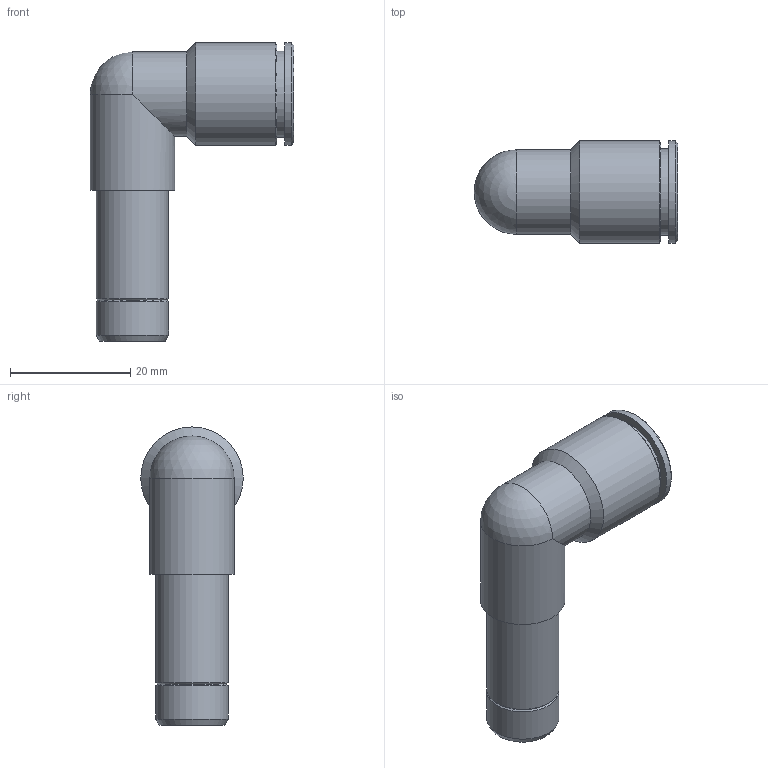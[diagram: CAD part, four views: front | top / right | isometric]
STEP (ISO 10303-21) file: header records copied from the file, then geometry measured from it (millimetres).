
FILE_DESCRIPTION(('Bauteilbeschreibung','HiCAD-Model','HiCAD-STEP-TRANSLATION','Bauteilbeschreibung'),'2;1');
FILE_NAME('B:/ABGLEICH/ZEICHNUNGEN/STEP FÜR INTERNET/STEP/IPSO 047/204706_IPSO_047_12.STP','2012-03-21T11:01:01+00:00',('Konstrukteur'),('Konstrukteur Firma GmbH'),' HiCAD neXt 2008, Step 3.1.1401.2J ','HiCAD neXt 2008','confidential');
FILE_SCHEMA(('AUTOMOTIVE_DESIGN { 1 2 10303 214 0 1 1 1 }'));
Length unit declared in the file: millimetre
Products named in the file (3): A04706_IPSO_047_12; DR12; R204706
Assembly tree (2 placements, depth 2):
  A04706_IPSO_047_12
    DR12
    R204706
Bounding box: 33.8 x 17 x 49.5 mm (x, y, z)
Volume: 4004.7 mm3; surface area: 6392.4 mm2
Topology: 2 solids, 2 shells, 35 faces, 73 edges, 44 vertices
Faces by surface type: cylinder 14, cone 12, plane 8, sphere 1
Full cylindrical faces by diameter (mm): 10 x2, 12 x2, 12.15 x1, 12.2 x1, 13.2 x1, 14 x2, 14.3 x1, 14.5 x1, 17 x2
Entity records: 1126 total; most frequent: CARTESIAN_POINT 252, DIRECTION 150, ORIENTED_EDGE 76, AXIS2_PLACEMENT_3D 75, EDGE_LOOP 66, COLOUR_RGB 39, PRESENTATION_STYLE_ASSIGNMENT 39, EDGE_CURVE 38
